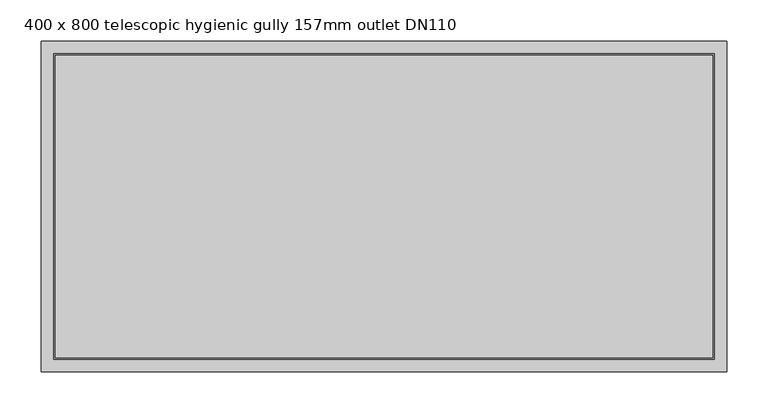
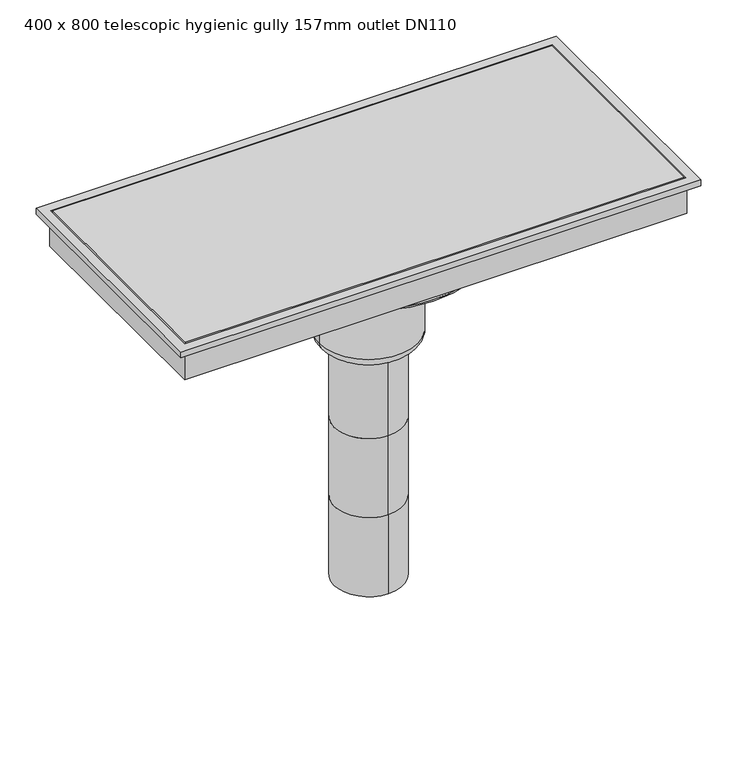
"""IFC4 building model written with IfcOpenShell, lengths in millimetres: sanitary terminal geometry, PF_ST_UN_Siphon telescopics eskis elongated hygiene first_ACO : 400 x 800 telescopic hygienic gully 157mm outlet DN110."""

from ifc_helpers import new_model, si_unit, point, frame, origin, origin_2d, place, context, project, spatial, polyline, circle_curve, ellipse_curve, trimmed, segment, composite_curve, outline, extrude, faceted_brep, source, transform, mapped, element, save
from ifc_brep_helpers import plane_surface, cylinder_surface, revolved_surface, advanced_brep


def sanitary_terminal_400_x_800_telescopic_hygienic_gully_157mm_b1d1d0e8(model_context):
    return source(origin(), model_context, "Body", "SolidModel", [
        extrude(outline(composite_curve([segment(trimmed(circle_curve(origin_2d(), 71.5), [point((-71.5, 0.0))], [point((71.5, 0.0))], False, "CARTESIAN"), True, "CONTINUOUS"), segment(trimmed(circle_curve(origin_2d(), 71.5), [point((71.5, 0.0))], [point((-71.5, 0.0))], False, "CARTESIAN"), True, "CONTINUOUS")], self_intersect=False)), frame((0.0, 0.0, -240.0), z_axis=(0.0, 0.0, 1.0), x_axis=(1.0, 0.0, 0.0)), (0.0, 0.0, 1.0), 60.0),
        faceted_brep([(415.0, 200.0, -130.0), (415.0, 200.0, -120.0), (415.0, -200.0, -120.0), (415.0, -200.0, -130.0), (401.0, 186.0, -180.0), (401.0, 186.0, -130.0), (401.0, -186.0, -130.0), (401.0, -186.0, -180.0), (400.0, -185.0, -120.0), (400.0, 185.0, -120.0), (400.0, 185.0, -170.0), (400.0, -185.0, -170.0), (-415.0, -200.0, -120.0), (-415.0, -200.0, -130.0), (-401.0, -186.0, -130.0), (-401.0, -186.0, -180.0), (-400.0, -185.0, -120.0), (-400.0, -185.0, -170.0), (-415.0, 200.0, -120.0), (-415.0, 200.0, -130.0), (-401.0, 186.0, -130.0), (-401.0, 186.0, -180.0), (-400.0, 185.0, -120.0), (-400.0, 185.0, -170.0)], [[[0, 1, 2, 3]], [[4, 5, 6, 7]], [[8, 9, 10, 11]], [[3, 2, 12, 13]], [[7, 6, 14, 15]], [[16, 8, 11, 17]], [[13, 12, 18, 19]], [[15, 14, 20, 21]], [[22, 16, 17, 23]], [[2, 1, 18, 12], [9, 8, 16, 22]], [[1, 0, 19, 18]], [[0, 3, 13, 19], [6, 5, 20, 14]], [[5, 4, 21, 20]], [[4, 7, 15, 21]], [[9, 22, 23, 10]], [[11, 10, 23, 17]]]),
        extrude(outline(polyline([(398.0, 183.0), (398.0, -183.0), (-398.0, -183.0), (-398.0, 183.0), (398.0, 183.0)])), frame((0.0, 0.0, -170.0), z_axis=(0.0, 0.0, 1.0), x_axis=(1.0, 0.0, 0.0)), (0.0, 0.0, 1.0), 50.0),
        advanced_brep(
        [(0.0, -55.0, -761.0), (0.0, 55.0, -761.0), (0.0, -55.0, -627.6666667), (0.0, 55.0, -627.6666667), (0.0, -55.0, -494.3333333), (0.0, 55.0, -494.3333333), (0.0, 55.0, -361.0), (55.0, 0.0, -361.0), (0.0, -55.0, -361.0), (-55.0, 0.0, -361.0), (78.5, 0.0, -344.5), (-78.5, 0.0, -344.5), (-78.5, 0.0, -192.0), (78.5, 0.0, -192.0), (62.0, 0.0, -361.0), (-62.0, 0.0, -361.0), (-179.0, 0.0, -192.0), (179.0, 0.0, -192.0), (-179.0, 0.0, -190.0), (179.0, 0.0, -190.0)],
        [
            (0, 1, circle_curve(frame((0.0, 0.0, -761.0), z_axis=(0.0, 0.0, -1.0), x_axis=(0.0, 1.0, 0.0)), 55.0)),
            (1, 0, circle_curve(frame((0.0, 0.0, -761.0), z_axis=(0.0, 0.0, -1.0), x_axis=(0.0, 1.0, 0.0)), 55.0)),
            (0, 2),
            (2, 3, circle_curve(frame((0.0, 0.0, -627.6666667), z_axis=(0.0, 0.0, -1.0), x_axis=(0.0, 1.0, 0.0)), 55.0)),
            (3, 1),
            (3, 2, circle_curve(frame((0.0, 0.0, -627.6666667), z_axis=(0.0, 0.0, -1.0), x_axis=(0.0, 1.0, 0.0)), 55.0)),
            (4, 2),
            (3, 5),
            (5, 4, circle_curve(frame((0.0, 0.0, -494.3333333), z_axis=(0.0, 0.0, -1.0), x_axis=(1.0, 0.0, 0.0)), 55.0)),
            (4, 5, circle_curve(frame((0.0, 0.0, -494.3333333), z_axis=(0.0, 0.0, -1.0), x_axis=(-1.0, 0.0, 0.0)), 55.0)),
            (5, 6),
            (6, 7, circle_curve(frame((0.0, 0.0, -361.0), z_axis=(0.0, 0.0, -1.0), x_axis=(0.0, 1.0, 0.0)), 55.0)),
            (7, 8, circle_curve(frame((0.0, 0.0, -361.0), z_axis=(0.0, 0.0, -1.0), x_axis=(0.0, 1.0, 0.0)), 55.0)),
            (8, 4),
            (8, 9, circle_curve(frame((0.0, 0.0, -361.0), z_axis=(0.0, 0.0, -1.0), x_axis=(0.0, 1.0, 0.0)), 55.0)),
            (9, 6, circle_curve(frame((0.0, 0.0, -361.0), z_axis=(0.0, 0.0, -1.0), x_axis=(0.0, 1.0, 0.0)), 55.0)),
            (10, 11, circle_curve(frame((0.0, 0.0, -344.5), z_axis=(0.0, 0.0, 1.0), x_axis=(-1.0, 0.0, 0.0)), 78.5)),
            (11, 12),
            (12, 13, circle_curve(frame((0.0, 0.0, -192.0), z_axis=(0.0, 0.0, -1.0), x_axis=(-1.0, 0.0, 0.0)), 78.5)),
            (13, 10),
            (11, 10, circle_curve(frame((0.0, 0.0, -344.5), z_axis=(0.0, 0.0, 1.0), x_axis=(-1.0, 0.0, 0.0)), 78.5)),
            (13, 12, circle_curve(frame((0.0, 0.0, -192.0), z_axis=(0.0, 0.0, -1.0), x_axis=(-1.0, 0.0, 0.0)), 78.5)),
            (10, 14, circle_curve(frame((62.0, 0.0, -344.5), z_axis=(0.0, 1.0, 0.0), x_axis=(-1.0, 0.0, 0.0)), 16.5)),
            (14, 15, circle_curve(frame((0.0, 0.0, -361.0), z_axis=(0.0, 0.0, 1.0), x_axis=(-1.0, 0.0, 0.0)), 62.0)),
            (15, 11, circle_curve(frame((-62.0, 0.0, -344.5), z_axis=(0.0, 1.0, 0.0), x_axis=(1.0, 0.0, 0.0)), 16.5)),
            (15, 14, circle_curve(frame((0.0, 0.0, -361.0), z_axis=(0.0, 0.0, 1.0), x_axis=(-1.0, 0.0, 0.0)), 62.0)),
            (14, 7),
            (9, 15),
            (16, 17, circle_curve(frame((0.0, 0.0, -192.0), z_axis=(0.0, 0.0, -1.0), x_axis=(1.0, 0.0, 0.0)), 179.0)),
            (17, 16, circle_curve(frame((0.0, 0.0, -192.0), z_axis=(0.0, 0.0, -1.0), x_axis=(1.0, 0.0, 0.0)), 179.0)),
            (18, 19, circle_curve(frame((0.0, 0.0, -190.0), z_axis=(0.0, 0.0, 1.0), x_axis=(1.0, 0.0, 0.0)), 179.0)),
            (19, 18, circle_curve(frame((0.0, 0.0, -190.0), z_axis=(0.0, 0.0, 1.0), x_axis=(1.0, 0.0, 0.0)), 179.0)),
            (17, 19),
            (18, 16),
        ],
        [
            plane_surface(frame((0.0, 55.0, -761.0), z_axis=(0.0, 0.0, -1.0), x_axis=(1.0, 0.0, 0.0))),
            cylinder_surface(frame((0.0, 0.0, -627.6666667), z_axis=(0.0, 0.0, -1.0), x_axis=(0.0, 1.0, 0.0)), 55.0),
            cylinder_surface(frame((0.0, 0.0, -494.3333333), z_axis=(0.0, 0.0, -1.0), x_axis=(1.0, 0.0, 0.0)), 55.0),
            cylinder_surface(frame((0.0, 0.0, -494.3333333), z_axis=(0.0, 0.0, -1.0), x_axis=(-1.0, 0.0, 0.0)), 55.0),
            cylinder_surface(frame((0.0, 0.0, -361.0), z_axis=(0.0, 0.0, -1.0), x_axis=(0.0, 1.0, 0.0)), 55.0),
            cylinder_surface(frame((0.0, 0.0, -130.0), z_axis=(0.0, 0.0, -1.0), x_axis=(-1.0, 0.0, 0.0)), 78.5),
            revolved_surface(trimmed(ellipse_curve(frame((-62.0, 0.0, -344.5), z_axis=(0.0, -1.0, 0.0), x_axis=(1.0, 0.0, 0.0)), 16.5, 16.5), [point((-78.5, 0.0, -344.5))], [point((-62.0, 0.0, -361.0))], True, "CARTESIAN"), (0.0, 0.0, -130.0), (0.0, 0.0, -1.0)),
            plane_surface(frame((0.0, 0.0, -361.0), z_axis=(0.0, 0.0, -1.0), x_axis=(-1.0, 0.0, 0.0))),
            plane_surface(frame((179.0, 0.0, -192.0), z_axis=(0.0, 0.0, -1.0), x_axis=(0.0, -1.0, 0.0))),
            plane_surface(frame((179.0, 0.0, -190.0), z_axis=(0.0, 0.0, 1.0), x_axis=(0.0, 1.0, 0.0))),
            cylinder_surface(frame((0.0, 0.0, -192.0), z_axis=(0.0, 0.0, 1.0), x_axis=(1.0, 0.0, 0.0)), 179.0),
        ],
        [
            (0, [[1, 2]]),
            (1, [[-1, 3, 4, 5]]),
            (1, [[-2, -5, 6, -3]]),
            (2, [[7, -6, 8, 9]]),
            (3, [[-7, 10, -8, -4]]),
            (4, [[11, 12, 13, 14, -9]]),
            (4, [[-11, -10, -14, 15, 16]]),
            (5, [[17, 18, 19, 20]]),
            (5, [[-18, 21, -20, 22]]),
            (6, [[-17, 23, 24, 25]]),
            (6, [[-21, -25, 26, -23]]),
            (7, [[-24, 27, -12, -16, 28]]),
            (7, [[-26, -28, -15, -13, -27]]),
            (8, [[29, 30], [-19, -22]]),
            (9, [[31, 32]]),
            (10, [[-30, 33, -31, 34]]),
            (10, [[-29, -34, -32, -33]]),
        ],
    ),
    ])


if __name__ == "__main__":
    model = new_model("IFC4")
    model_context = context("Model", 3, world=origin())
    ifc_project = project(units=[si_unit("LENGTHUNIT", "METRE", prefix="MILLI")], contexts=[model_context])
    site = spatial("IfcSite", under=ifc_project)
    building = spatial("IfcBuilding", under=site)
    placement = place(None, origin())
    sanitary_terminal_400_x_800_telescopic_hygienic_gully_157mm_shape = sanitary_terminal_400_x_800_telescopic_hygienic_gully_157mm_b1d1d0e8(model_context)
    element("IfcSanitaryTerminal", 1, ObjectType="PF_ST_UN_Siphon telescopics eskis elongated hygiene first_ACO : 400 x 800 telescopic hygienic gully 157mm outlet DN110", at=placement, inside=building, context=model_context, shape_type="MappedRepresentation", body=[
        mapped(sanitary_terminal_400_x_800_telescopic_hygienic_gully_157mm_shape, transform((0.0, 0.0, 0.0), x_axis=(1.0, 0.0, 0.0), y_axis=(0.0, 1.0, 0.0), z_axis=(0.0, 0.0, 1.0))),
    ])
    save(model, "model.ifc")
